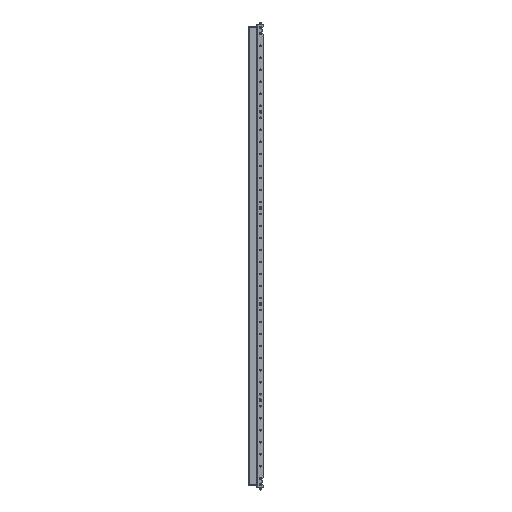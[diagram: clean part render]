
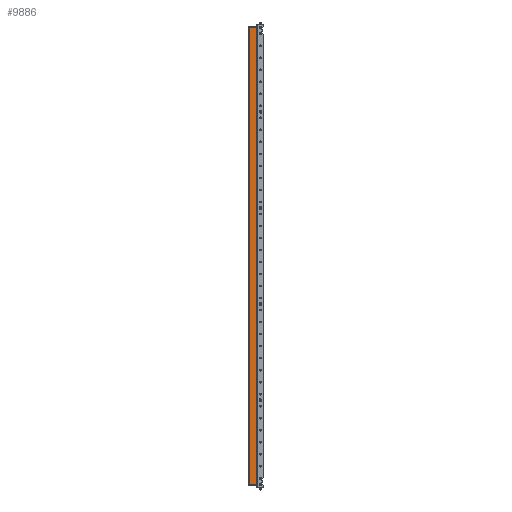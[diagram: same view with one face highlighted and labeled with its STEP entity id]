
A CAD part, front view. The second image highlights one B-rep face of the part: STEP entity #9886.
In plain terms, the highlighted planar face has unit normal (0, -1, 0).
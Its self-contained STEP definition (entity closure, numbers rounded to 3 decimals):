
#3489 = VECTOR ( 'NONE', #9985, 1000. ) ;
#5760 = CARTESIAN_POINT ( 'NONE',  ( -31.293, -9.122, 2878. ) ) ;
#5983 = VERTEX_POINT ( 'NONE', #49991 ) ;
#6049 = LINE ( 'NONE', #23633, #32780 ) ;
#7252 = VERTEX_POINT ( 'NONE', #56016 ) ;
#7514 = CARTESIAN_POINT ( 'NONE',  ( 0.607, -9.122, 976. ) ) ;
#7729 = VERTEX_POINT ( 'NONE', #7514 ) ;
#8885 = VERTEX_POINT ( 'NONE', #14677 ) ;
#8887 = VECTOR ( 'NONE', #49029, 1000. ) ;
#9358 = LINE ( 'NONE', #18572, #53294 ) ;
#9886 = ADVANCED_FACE ( 'NONE', ( #20770 ), #11833, .F. ) ;
#9985 = DIRECTION ( 'NONE',  ( 1., 0., 0. ) ) ;
#11258 = LINE ( 'NONE', #37466, #28513 ) ;
#11833 = PLANE ( 'NONE',  #29456 ) ;
#13339 = ORIENTED_EDGE ( 'NONE', *, *, #17310, .T. ) ;
#13703 = DIRECTION ( 'NONE',  ( 0., 0., -1. ) ) ;
#14677 = CARTESIAN_POINT ( 'NONE',  ( 0.607, -9.122, 2878. ) ) ;
#14923 = EDGE_CURVE ( 'NONE', #8885, #39327, #44974, .T. ) ;
#16255 = ORIENTED_EDGE ( 'NONE', *, *, #56440, .T. ) ;
#16445 = DIRECTION ( 'NONE',  ( 0., 0., 1. ) ) ;
#17310 = EDGE_CURVE ( 'NONE', #8885, #5983, #37120, .T. ) ;
#18572 = CARTESIAN_POINT ( 'NONE',  ( -31.293, -9.122, 976. ) ) ;
#19235 = EDGE_CURVE ( 'NONE', #39327, #40960, #22362, .T. ) ;
#19336 = DIRECTION ( 'NONE',  ( 0., 0., -1. ) ) ;
#19909 = EDGE_CURVE ( 'NONE', #7252, #20594, #11258, .T. ) ;
#20594 = VERTEX_POINT ( 'NONE', #45094 ) ;
#20764 = ORIENTED_EDGE ( 'NONE', *, *, #38718, .T. ) ;
#20770 = FACE_OUTER_BOUND ( 'NONE', #43023, .T. ) ;
#22362 = LINE ( 'NONE', #53210, #31107 ) ;
#23633 = CARTESIAN_POINT ( 'NONE',  ( -28.193, -9.122, 976. ) ) ;
#27579 = LINE ( 'NONE', #28417, #3489 ) ;
#28417 = CARTESIAN_POINT ( 'NONE',  ( -28.193, -9.122, 976. ) ) ;
#28513 = VECTOR ( 'NONE', #19336, 1000. ) ;
#29456 = AXIS2_PLACEMENT_3D ( 'NONE', #33449, #55947, #16445 ) ;
#29697 = VERTEX_POINT ( 'NONE', #39544 ) ;
#30553 = EDGE_CURVE ( 'NONE', #29697, #20594, #9358, .T. ) ;
#31015 = CARTESIAN_POINT ( 'NONE',  ( 2.307, -9.122, 2878. ) ) ;
#31028 = VECTOR ( 'NONE', #49752, 1000. ) ;
#31107 = VECTOR ( 'NONE', #13703, 1000. ) ;
#32780 = VECTOR ( 'NONE', #33404, 1000. ) ;
#33404 = DIRECTION ( 'NONE',  ( 1., 0., 0. ) ) ;
#33449 = CARTESIAN_POINT ( 'NONE',  ( -28.193, -9.122, 2890.5 ) ) ;
#36537 = ORIENTED_EDGE ( 'NONE', *, *, #39460, .T. ) ;
#37120 = LINE ( 'NONE', #45512, #44083 ) ;
#37466 = CARTESIAN_POINT ( 'NONE',  ( -29.693, -9.122, 2890.5 ) ) ;
#38718 = EDGE_CURVE ( 'NONE', #29697, #7729, #6049, .T. ) ;
#39327 = VERTEX_POINT ( 'NONE', #31015 ) ;
#39460 = EDGE_CURVE ( 'NONE', #5983, #7252, #41917, .T. ) ;
#39544 = CARTESIAN_POINT ( 'NONE',  ( -26.493, -9.122, 976. ) ) ;
#40960 = VERTEX_POINT ( 'NONE', #49408 ) ;
#41917 = LINE ( 'NONE', #50035, #31028 ) ;
#43023 = EDGE_LOOP ( 'NONE', ( #56830, #49294, #20764, #16255, #56181, #49094, #13339, #36537 ) ) ;
#44083 = VECTOR ( 'NONE', #50975, 1000. ) ;
#44541 = DIRECTION ( 'NONE',  ( -1., 0., 0. ) ) ;
#44974 = LINE ( 'NONE', #5760, #8887 ) ;
#45094 = CARTESIAN_POINT ( 'NONE',  ( -29.693, -9.122, 976. ) ) ;
#45512 = CARTESIAN_POINT ( 'NONE',  ( -28.193, -9.122, 2878. ) ) ;
#49029 = DIRECTION ( 'NONE',  ( 1., 0., 0. ) ) ;
#49094 = ORIENTED_EDGE ( 'NONE', *, *, #14923, .F. ) ;
#49294 = ORIENTED_EDGE ( 'NONE', *, *, #30553, .F. ) ;
#49408 = CARTESIAN_POINT ( 'NONE',  ( 2.307, -9.122, 976. ) ) ;
#49752 = DIRECTION ( 'NONE',  ( -1., 0., 0. ) ) ;
#49991 = CARTESIAN_POINT ( 'NONE',  ( -26.493, -9.122, 2878. ) ) ;
#50035 = CARTESIAN_POINT ( 'NONE',  ( -28.193, -9.122, 2878. ) ) ;
#50975 = DIRECTION ( 'NONE',  ( -1., 0., 0. ) ) ;
#53210 = CARTESIAN_POINT ( 'NONE',  ( 2.307, -9.122, 2890.5 ) ) ;
#53294 = VECTOR ( 'NONE', #44541, 1000. ) ;
#55947 = DIRECTION ( 'NONE',  ( 0., 1., 0. ) ) ;
#56016 = CARTESIAN_POINT ( 'NONE',  ( -29.693, -9.122, 2878. ) ) ;
#56181 = ORIENTED_EDGE ( 'NONE', *, *, #19235, .F. ) ;
#56440 = EDGE_CURVE ( 'NONE', #7729, #40960, #27579, .T. ) ;
#56830 = ORIENTED_EDGE ( 'NONE', *, *, #19909, .T. ) ;
